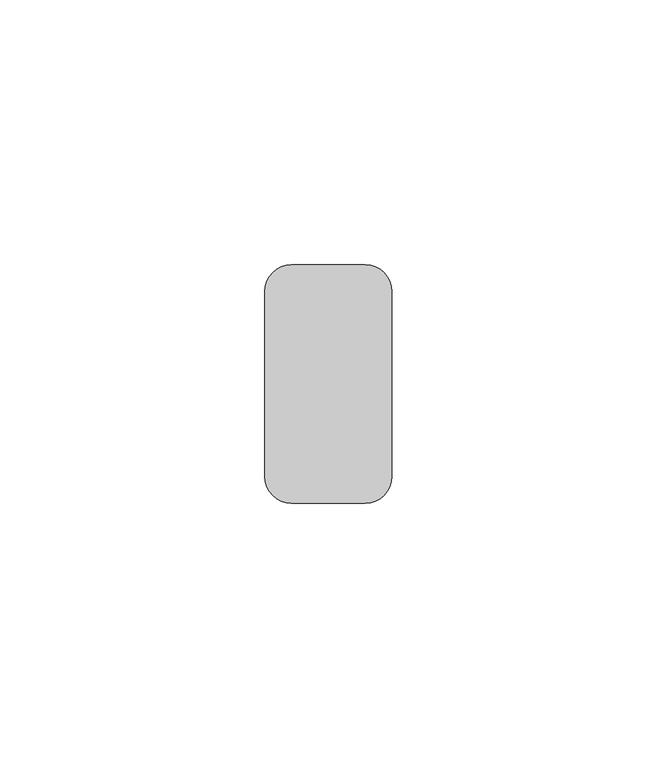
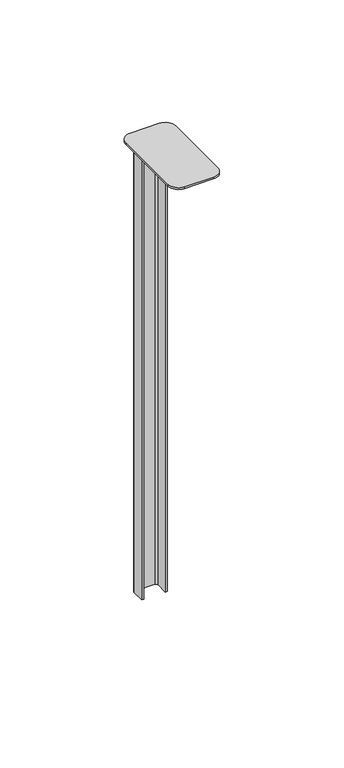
"""IFC4 building model written with IfcOpenShell, lengths in millimetres: proxy geometry, durlum_U1300 : durlum_U1300."""

import ifcopenshell
import ifcopenshell.guid

model = None  # the IFC model being written
_history = None  # IfcOwnerHistory: only IFC2X3 demands one
_inside = {}  # id of a spatial element -> (the spatial element, [elements in it])
_under = {}  # id of a project, library or spatial element -> (it, [spatial elements below it])
_declared = {}  # id of a project -> (the project, [libraries it declares])
_typed = {}  # id of a type object -> (the type object, [elements of that type])
_made_of = {}  # id of a material, layer set ... -> (it, [elements and type objects made of it])


def new_model(schema):
    """Start an empty IFC model of exactly this schema.

    Asked for "IFC4X3", IfcOpenShell would pick the latest addendum, in which some entities
    have other attributes; the version numbers below select the first issue.
    IFC2X3 requires an IfcOwnerHistory on every rooted entity: one is made here for all.
    """
    global model, _history
    if schema == "IFC4X3":
        model = ifcopenshell.file(schema_version=(4, 3, 0, 0))
    else:
        model = ifcopenshell.file(schema=schema)
    _inside.clear()
    _under.clear()
    _declared.clear()
    _typed.clear()
    _made_of.clear()
    _history = None
    if model.schema == "IFC2X3":
        org = make("IfcOrganization", Name="unknown")
        user = make(
            "IfcPersonAndOrganization",
            ThePerson=make("IfcPerson", FamilyName="unknown"),
            TheOrganization=org,
        )
        app = make(
            "IfcApplication",
            ApplicationDeveloper=org,
            Version="unknown",
            ApplicationFullName="unknown",
            ApplicationIdentifier="unknown",
        )
        _history = make(
            "IfcOwnerHistory",
            OwningUser=user,
            OwningApplication=app,
            ChangeAction="ADDED",
            CreationDate=0,
        )
    return model


def make(cls, **values):
    """One entity of the class cls with the attributes given. An attribute that is None is left unset."""
    return model.create_entity(
        cls, **{name: value for name, value in values.items() if value is not None}
    )


def rooted(cls, **values):
    """An entity with a GlobalId (a new one), such as an element, a storey or a relation."""
    return make(cls, GlobalId=ifcopenshell.guid.new(), OwnerHistory=_history, **values)


def si_unit(unit_type, name, prefix=None):
    """IfcSIUnit, for example si_unit("LENGTHUNIT", "METRE", prefix="MILLI")."""
    return make("IfcSIUnit", UnitType=unit_type, Prefix=prefix, Name=name)


def assignment(units):
    """IfcUnitAssignment: the units of a project."""
    return None if units is None else make("IfcUnitAssignment", Units=units)


def point(xyz):
    """IfcCartesianPoint."""
    return None if xyz is None else make("IfcCartesianPoint", Coordinates=xyz)


def direction(xyz):
    """IfcDirection."""
    return None if xyz is None else make("IfcDirection", DirectionRatios=xyz)


def frame(location, z_axis=None, x_axis=None):
    """IfcAxis2Placement3D, a coordinate frame: its origin and axes. An axis left out is left unset."""
    return make(
        "IfcAxis2Placement3D",
        Location=point(location),
        Axis=direction(z_axis),
        RefDirection=direction(x_axis),
    )


def frame_2d(location, x_axis=None):
    """IfcAxis2Placement2D, a coordinate frame in the plane: its origin and x axis."""
    return make(
        "IfcAxis2Placement2D", Location=point(location), RefDirection=direction(x_axis)
    )


def origin():
    """The frame at (0, 0, 0) with its axes left unset."""
    return frame((0.0, 0.0, 0.0))


def place(relative_to, where):
    """IfcLocalPlacement: puts the frame where relative to a parent placement (None: the world)."""
    return make(
        "IfcLocalPlacement", PlacementRelTo=relative_to, RelativePlacement=where
    )


def context(
    kind, dimensions, precision=None, world=None, true_north=None, identifier=None
):
    """IfcGeometricRepresentationContext, for example the 3D "Model" context."""
    return make(
        "IfcGeometricRepresentationContext",
        ContextIdentifier=identifier,
        ContextType=kind,
        CoordinateSpaceDimension=dimensions,
        Precision=precision,
        WorldCoordinateSystem=world,
        TrueNorth=true_north,
    )


def project(units=None, contexts=None):
    """IfcProject with its units and contexts."""
    return rooted(
        "IfcProject",
        Name="project",
        RepresentationContexts=contexts,
        UnitsInContext=assignment(units),
    )


def spatial(cls, under=None, at=None, **own):
    """A site, building, storey or space (cls), placed at a placement, below another one or the project."""
    s = rooted(cls, ObjectPlacement=at, **own)
    if under is not None:
        _under.setdefault(under.id(), (under, []))[1].append(s)
    return s


def polyline(points):
    """IfcPolyline through the points."""
    return make("IfcPolyline", Points=[point(p) for p in points])


def circle_curve(where, radius):
    """IfcCircle in the frame where."""
    return make("IfcCircle", Position=where, Radius=radius)


def trimmed(basis, trim1, trim2, sense, master):
    """IfcTrimmedCurve: the piece of a basis curve between two trims."""
    return make(
        "IfcTrimmedCurve",
        BasisCurve=basis,
        Trim1=trim1,
        Trim2=trim2,
        SenseAgreement=sense,
        MasterRepresentation=master,
    )


def segment(curve, same_sense, transition):
    """IfcCompositeCurveSegment."""
    return make(
        "IfcCompositeCurveSegment",
        Transition=transition,
        SameSense=same_sense,
        ParentCurve=curve,
    )


def composite_curve(segments, self_intersect=None):
    """IfcCompositeCurve: segments joined end to end."""
    return make("IfcCompositeCurve", Segments=segments, SelfIntersect=self_intersect)


def outline(outer, holes=None, kind="AREA"):
    """IfcArbitraryClosedProfileDef: a profile drawn as a closed curve; with holes, ...WithVoids."""
    if holes is None:
        return make("IfcArbitraryClosedProfileDef", ProfileType=kind, OuterCurve=outer)
    return make(
        "IfcArbitraryProfileDefWithVoids",
        ProfileType=kind,
        OuterCurve=outer,
        InnerCurves=holes,
    )


def extrude(swept, where, along, depth):
    """IfcExtrudedAreaSolid: the profile swept, set in the frame where, extruded along a direction by depth."""
    return make(
        "IfcExtrudedAreaSolid",
        SweptArea=swept,
        Position=where,
        ExtrudedDirection=direction(along),
        Depth=depth,
    )


def shape(context_of_items, identifier, shape_type, items):
    """IfcShapeRepresentation: the items that make up one representation, for example the "Body"."""
    return make(
        "IfcShapeRepresentation",
        ContextOfItems=context_of_items,
        RepresentationIdentifier=identifier,
        RepresentationType=shape_type,
        Items=items,
    )


def source(mapping_origin, context_of_items, identifier, shape_type, items):
    """IfcRepresentationMap: a shape defined once, which mapped items show again and again."""
    return make(
        "IfcRepresentationMap",
        MappingOrigin=mapping_origin,
        MappedRepresentation=shape(context_of_items, identifier, shape_type, items),
    )


def transform(
    local_origin,
    x_axis=None,
    y_axis=None,
    z_axis=None,
    scale=None,
    scale2=None,
    scale3=None,
    uniform=True,
):
    """IfcCartesianTransformationOperator3D, or its non-uniform kind. x_axis, y_axis, z_axis: its Axis1, 2, 3."""
    if uniform:
        return make(
            "IfcCartesianTransformationOperator3D",
            Axis1=direction(x_axis),
            Axis2=direction(y_axis),
            LocalOrigin=point(local_origin),
            Scale=scale,
            Axis3=direction(z_axis),
        )
    return make(
        "IfcCartesianTransformationOperator3DnonUniform",
        Axis1=direction(x_axis),
        Axis2=direction(y_axis),
        LocalOrigin=point(local_origin),
        Scale=scale,
        Axis3=direction(z_axis),
        Scale2=scale2,
        Scale3=scale3,
    )


def mapped(mapping_source, mapping_target):
    """IfcMappedItem: shows the shape of a source again, moved by a transform."""
    return make(
        "IfcMappedItem", MappingSource=mapping_source, MappingTarget=mapping_target
    )


def made_of(thing, what):
    """Note that an element or type object is made of a material, layer set ...; save() writes the relation."""
    if what is not None:
        _made_of.setdefault(what.id(), (what, []))[1].append(thing)
    return thing


def element(
    cls,
    number,
    at=None,
    inside=None,
    cuts=None,
    type_object=None,
    material=None,
    context=None,
    identifier="Body",
    shape_type=None,
    held_by="IfcProductDefinitionShape",
    body=None,
    shapes=None,
    **own,
):
    """One element of the class cls, such as IfcWall. Its Tag is "e" and its number.

    at: its placement. inside: the storey or other place that contains it. cuts: it is an
    opening in that element (IfcRelVoidsElement). A single representation is given by context,
    identifier, shape_type and body (its items); several are given by shapes. held_by: the class
    of the entity that holds the representations. save() writes the other relations.
    """
    e = rooted(cls, Tag="e%d" % number, ObjectPlacement=at, **own)
    if body is not None:
        shapes = [shape(context, identifier, shape_type, body)]
    if shapes is not None:
        e.Representation = make(held_by, Representations=shapes)
    if inside is not None:
        _inside.setdefault(inside.id(), (inside, []))[1].append(e)
    if cuts is not None:
        rooted(
            "IfcRelVoidsElement", RelatingBuildingElement=cuts, RelatedOpeningElement=e
        )
    if type_object is not None:
        _typed.setdefault(type_object.id(), (type_object, []))[1].append(e)
    return made_of(e, material)


def aggregate(whole, parts):
    """IfcRelAggregates: a whole, such as a stair, and the parts it consists of."""
    return rooted("IfcRelAggregates", RelatingObject=whole, RelatedObjects=parts)


def save(model, path):
    """Write the relations noted so far, then the file.

    IfcRelAggregates (storeys below a building ...), IfcRelContainedInSpatialStructure (elements
    in a storey), IfcRelDefinesByType, IfcRelAssociatesMaterial and IfcRelDeclares: one each for
    every whole, place, type object, material and project.
    """
    for whole, parts in _under.values():
        aggregate(whole, parts)
    for where, things in _inside.values():
        rooted(
            "IfcRelContainedInSpatialStructure",
            RelatedElements=things,
            RelatingStructure=where,
        )
    for kind, things in _typed.values():
        rooted("IfcRelDefinesByType", RelatedObjects=things, RelatingType=kind)
    for what, things in _made_of.values():
        rooted("IfcRelAssociatesMaterial", RelatedObjects=things, RelatingMaterial=what)
    for by, libraries in _declared.values():
        rooted("IfcRelDeclares", RelatingContext=by, RelatedDefinitions=libraries)
    model.write(path)


def generic_models_8a91d987(model_context):
    return source(origin(), model_context, "Body", "SweptSolid", [
        extrude(outline(composite_curve([segment(trimmed(circle_curve(frame_2d((7.0, -5.0)), 5.0), [point((7.0, 0.0))], [point((12.0, -5.0))], False, "CARTESIAN"), True, "CONTINUOUS"), segment(polyline([(12.0, -5.0), (12.0, -40.0)]), True, "CONTINUOUS"), segment(trimmed(circle_curve(frame_2d((7.0, -40.0)), 5.0), [point((12.0, -40.0))], [point((7.0, -45.0))], False, "CARTESIAN"), True, "CONTINUOUS"), segment(polyline([(7.0, -45.0), (-7.0, -45.0)]), True, "CONTINUOUS"), segment(trimmed(circle_curve(frame_2d((-7.0, -40.0)), 5.0), [point((-7.0, -45.0))], [point((-12.0, -40.0))], False, "CARTESIAN"), True, "CONTINUOUS"), segment(polyline([(-12.0, -40.0), (-12.0, -5.0)]), True, "CONTINUOUS"), segment(trimmed(circle_curve(frame_2d((-7.0, -5.0)), 5.0), [point((-12.0, -5.0))], [point((-7.0, 0.0))], False, "CARTESIAN"), True, "CONTINUOUS"), segment(polyline([(-7.0, 0.0), (7.0, 0.0)]), True, "CONTINUOUS")], self_intersect=False)), frame((0.0, 0.0, 948.5875318), z_axis=(0.0, 0.0, 1.0), x_axis=(1.0, 0.0, 0.0)), (0.0, 0.0, 1.0), 1.0),
        extrude(outline(composite_curve([segment(trimmed(circle_curve(frame_2d((-4.25, -2.0)), 2.0), [point((-6.25, -2.0))], [point((-4.25, 0.0))], False, "CARTESIAN"), True, "CONTINUOUS"), segment(polyline([(-4.25, 0.0), (4.25, 0.0)]), True, "CONTINUOUS"), segment(trimmed(circle_curve(frame_2d((4.25, -2.0)), 2.0), [point((4.25, 0.0))], [point((6.25, -2.0))], False, "CARTESIAN"), True, "CONTINUOUS"), segment(polyline([(6.25, -2.0), (6.25, -8.0), (5.25, -8.0), (5.25, -2.0)]), True, "CONTINUOUS"), segment(trimmed(circle_curve(frame_2d((4.25, -2.0)), 1.0), [point((5.25, -2.0))], [point((4.25, -1.0))], True, "CARTESIAN"), True, "CONTINUOUS"), segment(polyline([(4.25, -1.0), (-4.25, -1.0)]), True, "CONTINUOUS"), segment(trimmed(circle_curve(frame_2d((-4.25, -2.0)), 1.0), [point((-4.25, -1.0))], [point((-5.25, -2.0))], True, "CARTESIAN"), True, "CONTINUOUS"), segment(polyline([(-5.25, -2.0), (-5.25, -8.0), (-6.25, -8.0), (-6.25, -2.0)]), True, "CONTINUOUS")], self_intersect=False)), frame((0.0, 0.0, 716.5875318), z_axis=(0.0, 0.0, 1.0), x_axis=(1.0, 0.0, 0.0)), (0.0, 0.0, 1.0), 232.0),
    ])


if __name__ == "__main__":
    model = new_model("IFC4")
    model_context = context("Model", 3, world=origin())
    ifc_project = project(units=[si_unit("LENGTHUNIT", "METRE", prefix="MILLI")], contexts=[model_context])
    site = spatial("IfcSite", under=ifc_project)
    building = spatial("IfcBuilding", under=site)
    placement = place(None, origin())
    generic_models_shape = generic_models_8a91d987(model_context)
    element("IfcBuildingElementProxy", 1, Name="durlum_U1300 : durlum_U1300", ObjectType="durlum_U1300 : durlum_U1300", at=placement, inside=building, context=model_context, shape_type="MappedRepresentation", body=[
        mapped(generic_models_shape, transform((0.0, 0.0, 0.0), x_axis=(1.0, 0.0, 0.0), y_axis=(0.0, 1.0, 0.0), z_axis=(0.0, 0.0, 1.0))),
    ])
    save(model, "model.ifc")
